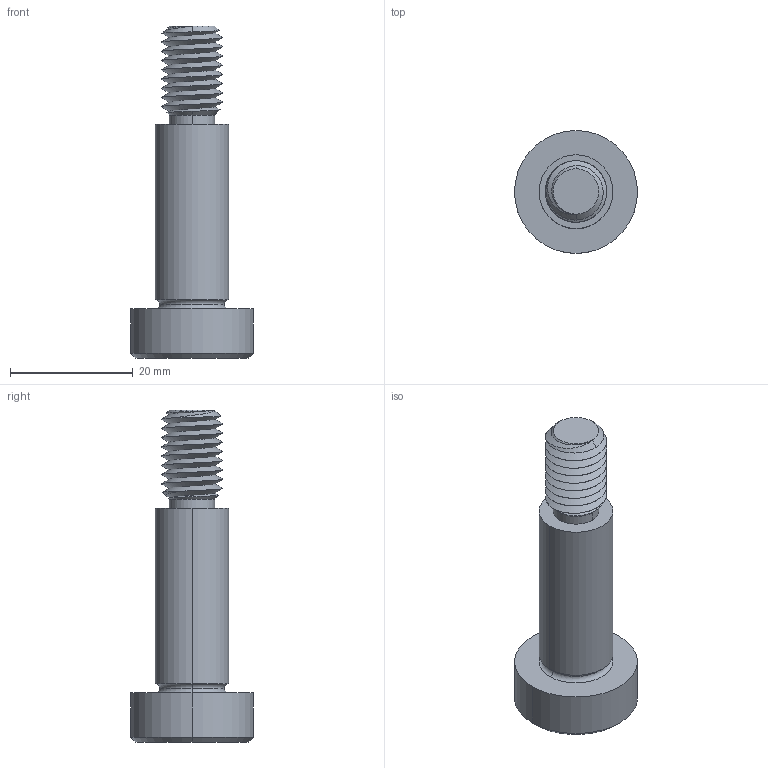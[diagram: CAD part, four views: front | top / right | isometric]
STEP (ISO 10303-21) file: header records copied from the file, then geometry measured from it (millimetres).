
FILE_DESCRIPTION (( 'STEP AP203' ), '1' );
FILE_NAME ('P0130.120-030-B2.step', '2021-11-09T22:05:19', ( '' ), ( '' ), 'SwSTEP 2.0', 'SolidWorks 2019', '' );
FILE_SCHEMA (( 'CONFIG_CONTROL_DESIGN' ));
Length unit declared in the file: millimetre
Products named in the file (1): P0130.120-030-B2
Bounding box: 20 x 20 x 54 mm (x, y, z)
Volume: 6570.4 mm3; surface area: 3188.2 mm2
Topology: 1 solids, 1 shells, 60 faces, 142 edges, 85 vertices
Faces by surface type: cylinder 23, plane 16, cone 15, torus 4, bspline 2
Entity records: 3534 total; most frequent: CARTESIAN_POINT 2187, ORIENTED_EDGE 280, DIRECTION 247, EDGE_CURVE 140, AXIS2_PLACEMENT_3D 99, VERTEX_POINT 85, EDGE_LOOP 63, ADVANCED_FACE 60
